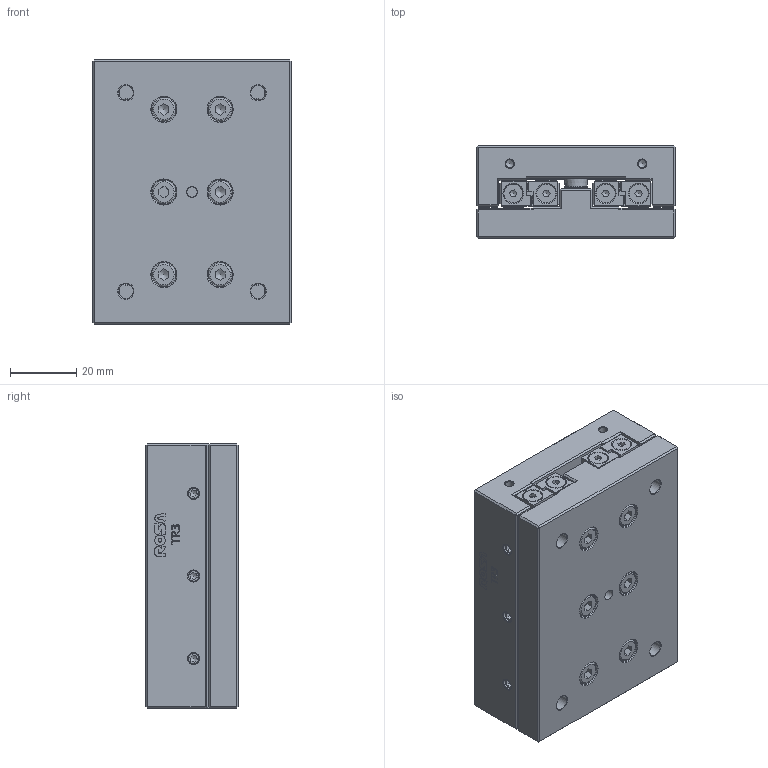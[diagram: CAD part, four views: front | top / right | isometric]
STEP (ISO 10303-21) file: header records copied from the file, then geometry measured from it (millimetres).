
FILE_DESCRIPTION(/* description */ ('Tavola TR3 L= 80 mm'),/* implementation_level */ '2;1');
FILE_NAME(/* name */ 'TR030080-00.stp',/* time_stamp */ '2024-02-07T10:24:52+01:00',/* author */ ('Rosa sistemi'),/* organization */ (''),/* preprocessor_version */ 'ST-DEVELOPER v20',/* originating_system */ 'Autodesk Inventor 2024',/* authorisation */ '');
FILE_SCHEMA (('AUTOMOTIVE_DESIGN { 1 0 10303 214 3 1 1 }'));
Length unit declared in the file: millimetre
Products named in the file (2): TR030080-00; TR030080-00_1
Assembly tree (1 placements, depth 2):
  TR030080-00
    TR030080-00_1
Bounding box: 60 x 28 x 80 mm (x, y, z)
Volume: 122484 mm3; surface area: 41001.8 mm2
Topology: 14 solids, 14 shells, 1401 faces, 3619 edges, 2366 vertices
Faces by surface type: plane 878, bspline 196, cylinder 173, cone 124, torus 30
Full cylindrical faces by diameter (mm): 0.929 x4, 1.161 x1, 2.459 x4, 2.554 x4, 3 x8, 3.1 x4, 3.192 x1, 3.242 x22, 4 x12, 4.5 x16, 5.7 x8, 6 x12, 7 x12, 7.5 x16
Entity records: 44769 total; most frequent: CARTESIAN_POINT 10375, ORIENTED_EDGE 7184, DIRECTION 6110, EDGE_CURVE 3592, VERTEX_POINT 2366, LINE 2328, VECTOR 2328, AXIS2_PLACEMENT_3D 1891
